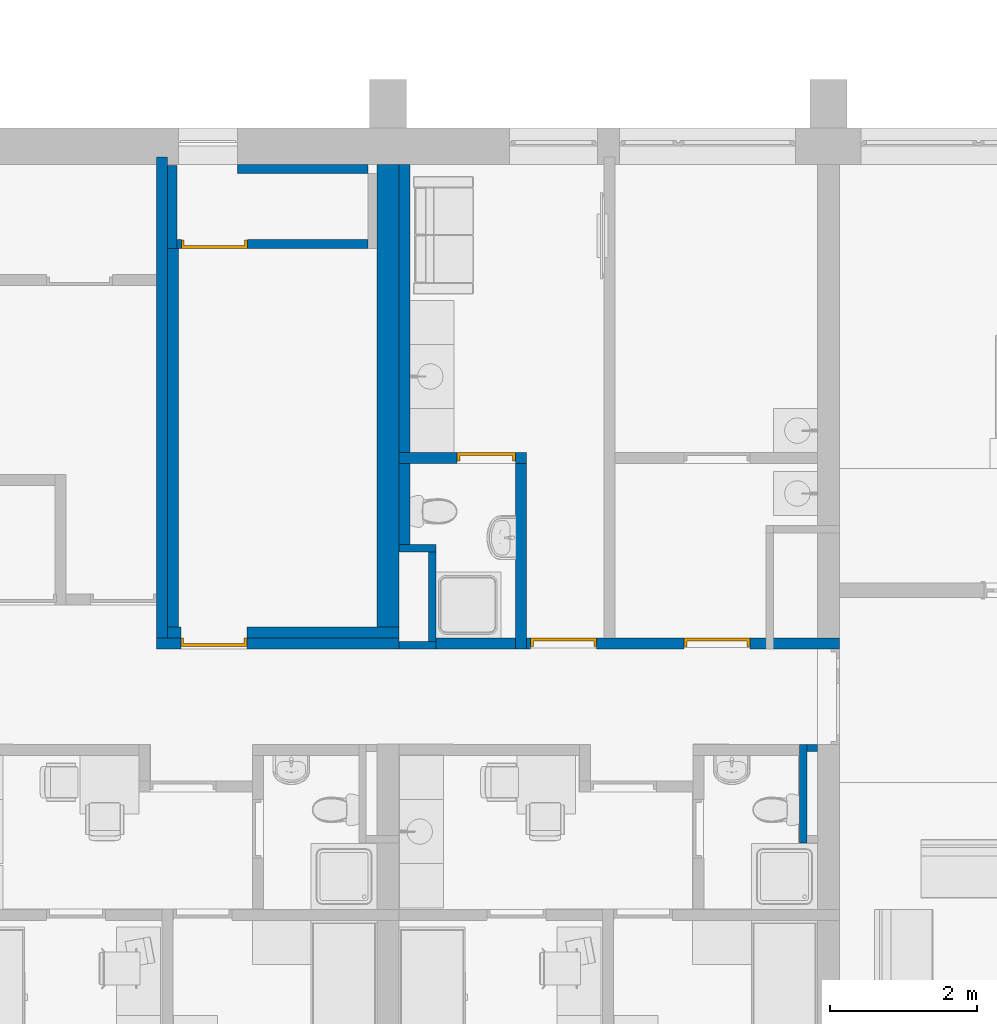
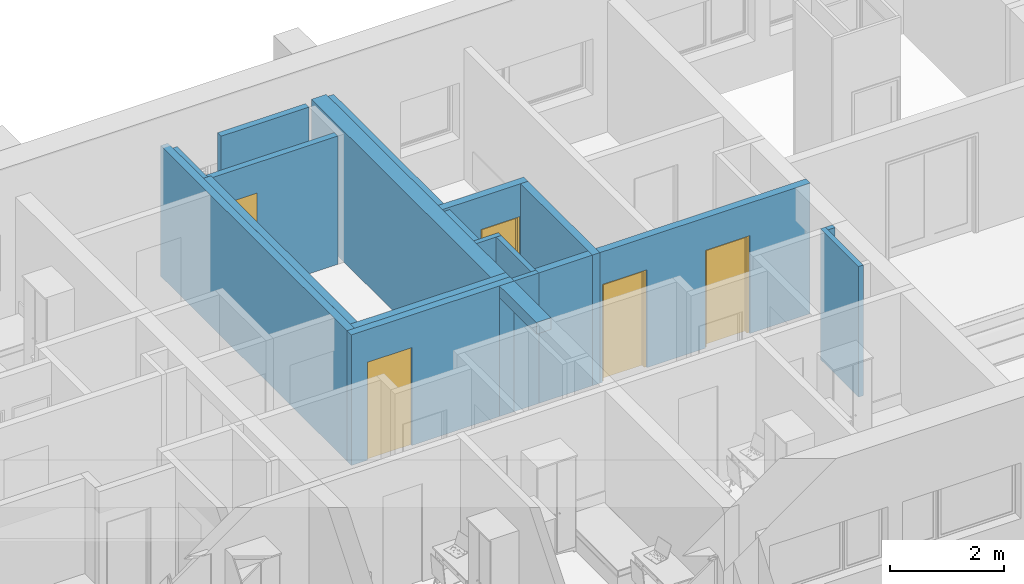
# One storey, part 13 of 152: 17 walls, 5 doors, 7 openings.
"""IFC2X3 building model written with IfcOpenShell, lengths in millimetres."""

from ifc_helpers import new_model, entity, si_unit, converted_unit, money_unit, direction, frame, origin_with_axes, place, context, subcontext, project, spatial, polyline, outline, extrude, faceted_brep, source, transform, mapped, material, material_list, layer, layer_set, layer_usage, type_object, element, fill, save


model = new_model("IFC2X3")

# Units and contexts
model_context = context("Model", 3, precision=1e-05, world=origin_with_axes(), true_north=direction((0.0, 1.0)))
body_context = subcontext(model_context, "Body", "Model", "MODEL_VIEW")
ifc_project = project(units=[si_unit("LENGTHUNIT", "METRE", prefix="MILLI"), si_unit("AREAUNIT", "SQUARE_METRE"), si_unit("VOLUMEUNIT", "CUBIC_METRE"), converted_unit("PLANEANGLEUNIT", "DEGREE", entity("IfcPlaneAngleMeasure", 0.0174532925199), si_unit("PLANEANGLEUNIT", "RADIAN"), dimensions=[0, 0, 0, 0, 0, 0, 0]), si_unit("SOLIDANGLEUNIT", "STERADIAN"), money_unit("USD"), converted_unit("TIMEUNIT", "Year", entity("IfcTimeMeasure", 31556926.0), si_unit("TIMEUNIT", "SECOND"), dimensions=[0, 0, 0, 0, 0, 0, 0]), si_unit("MASSUNIT", "GRAM"), si_unit("THERMODYNAMICTEMPERATUREUNIT", "DEGREE_CELSIUS"), si_unit("LUMINOUSINTENSITYUNIT", "LUMEN")], contexts=[model_context])

# Site, building, storey
site_placement = place(None, origin_with_axes())
site = spatial("IfcSite", under=ifc_project, at=site_placement, Name="Site", CompositionType="ELEMENT")
building_placement = place(site_placement, origin_with_axes())
building = spatial("IfcBuilding", under=site, at=building_placement, Name="Building", CompositionType="ELEMENT")
storey_placement = place(building_placement, frame((0.0, 0.0, 9500.0), z_axis=(0.0, 0.0, 1.0), x_axis=(1.0, 0.0, 0.0)))
storey = spatial("IfcBuildingStorey", under=building, at=storey_placement, Name="5KORRUS", CompositionType="ELEMENT", Elevation=9500.0)

# Wall, opening, door
ifc_material_1 = material(Name="UmbKipsplaat")
ifc_layer_1 = layer(ifc_material_1, 13.0, ventilated="UNKNOWN")
ifc_layer_2 = layer(ifc_material_1, 13.0, ventilated="UNKNOWN")
ifc_material_2 = material(Name="SOOJUSTUS MINERAALVILL")
ifc_layer_3 = layer(ifc_material_2, 98.0, ventilated="UNKNOWN")
ifc_layer_4 = layer(ifc_material_1, 13.0, ventilated="UNKNOWN")
ifc_layer_5 = layer(ifc_material_1, 13.0, ventilated="UNKNOWN")
ifc_layer_set_1 = layer_set([ifc_layer_1, ifc_layer_2, ifc_layer_3, ifc_layer_4, ifc_layer_5], Name="kipssein150")
ifc_layer_usage_1 = layer_usage(ifc_layer_set_1, "AXIS2", "POSITIVE", 0.0)
wall_type_1 = type_object("IfcWallType", Name="kipssein150 150", PredefinedType="NOTDEFINED")
wall_1_placement = place(storey_placement, frame((-16253.5225768, -9065.57320461, 0.0), z_axis=(0.0, 0.0, 1.0), x_axis=(-1.0, 0.0, 0.0)))
wall_1 = element("IfcWallStandardCase", 1, at=wall_1_placement, inside=storey, type_object=wall_type_1, material=ifc_layer_usage_1, Name="SS1", ObjectType="SS1", context=body_context, shape_type="SweptSolid", body=[
    extrude(outline(polyline([(0.0, 0.0), (1736.77412653, 0.0), (1736.77412653, 150.0), (0.0, 150.0), (0.0, 0.0)])), origin_with_axes(), (0.0, 0.0, 1.0), 2800.0),
])
opening_1_placement = place(wall_1_placement, frame((550.469369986, 0.0, 0.0), z_axis=(0.0, 0.0, 1.0), x_axis=(1.0, 0.0, 0.0)))
opening_1 = element("IfcOpeningElement", 2, at=opening_1_placement, cuts=wall_1, Name="SU3-5", context=body_context, shape_type="SweptSolid", body=[
    extrude(outline(polyline([(-400.0, -2100.0), (400.0, -2100.0), (400.0, 0.0), (-400.0, 0.0), (-400.0, -2100.0)])), frame((0.0, 150.0, 0.0), z_axis=(0.0, 1.0, 0.0), x_axis=(1.0, 0.0, 0.0)), (0.0, 0.0, -1.0), 450.0),
])
ifc_material_3 = material(Name="Background")
ifc_material_list = material_list([ifc_material_3])
door_style_1 = type_object("IfcDoorStyle", Name="Door 19", ConstructionType="NOTDEFINED", OperationType="SINGLE_SWING_LEFT", ParameterTakesPrecedence=False, Sizeable=False)
shared_shape_1 = source(origin_with_axes(), body_context, "Body", "Brep", [
    faceted_brep([(360.0, -40.0, 0.0), (360.0, -115.0, 0.0), (360.0, -115.0, 2060.0), (360.0, -40.0, 2060.0), (372.0, -40.0, 0.0), (372.0, 0.0, 0.0), (400.0, 0.0, 0.0), (400.0, -115.0, 0.0), (400.0, -115.0, 2060.0), (372.0, -40.0, 2060.0), (400.0, 0.0, 2060.0), (372.0, 0.0, 2060.0)], [[[0, 1, 2, 3]], [[4, 5, 6, 7, 1, 0]], [[2, 1, 7, 8]], [[9, 3, 2, 8, 10, 11]], [[9, 4, 0, 3]], [[11, 5, 4, 9]], [[11, 10, 6, 5]], [[7, 6, 10, 8]]]),
    faceted_brep([(-372.0, -40.0, 2060.0), (-372.0, 0.0, 2060.0), (-400.0, 0.0, 2060.0), (-400.0, -115.0, 2060.0), (-360.0, -115.0, 2060.0), (-360.0, -40.0, 2060.0), (-372.0, -40.0, 0.0), (-372.0, 0.0, 0.0), (-400.0, 0.0, 0.0), (-400.0, -115.0, 0.0), (-360.0, -115.0, 0.0), (-360.0, -40.0, 0.0)], [[[0, 1, 2, 3, 4, 5]], [[0, 6, 7, 1]], [[7, 8, 2, 1]], [[3, 2, 8, 9]], [[4, 3, 9, 10]], [[5, 4, 10, 11]], [[5, 11, 6, 0]], [[6, 11, 10, 9, 8, 7]]]),
    faceted_brep([(372.0, 0.0, 2072.0), (-372.0, 0.0, 2072.0), (-372.0, 0.0, 2060.0), (-400.0, 0.0, 2060.0), (-400.0, 0.0, 2100.0), (400.0, 0.0, 2100.0), (400.0, 0.0, 2060.0), (372.0, 0.0, 2060.0), (372.0, -40.0, 2072.0), (-372.0, -40.0, 2072.0), (-372.0, -40.0, 2060.0), (-360.0, -40.0, 2060.0), (-360.0, -115.0, 2060.0), (-400.0, -115.0, 2060.0), (-400.0, -115.0, 2100.0), (400.0, -115.0, 2100.0), (400.0, -115.0, 2060.0), (372.0, -40.0, 2060.0), (360.0, -115.0, 2060.0), (360.0, -40.0, 2060.0)], [[[0, 1, 2, 3, 4, 5, 6, 7]], [[0, 8, 9, 1]], [[1, 9, 10, 2]], [[10, 11, 12, 13, 3, 2]], [[14, 4, 3, 13]], [[15, 5, 4, 14]], [[16, 6, 5, 15]], [[17, 7, 6, 16, 18, 19]], [[7, 17, 8, 0]], [[10, 9, 8, 17, 19, 11]], [[19, 18, 12, 11]], [[13, 12, 18, 16, 15, 14]]]),
    faceted_brep([(-372.0, 0.0, 0.0), (372.0, 0.0, 0.0), (372.0, -40.0, 0.0), (-372.0, -40.0, 0.0), (-372.0, 0.0, 2072.0), (372.0, 0.0, 2072.0), (372.0, -40.0, 2072.0), (-372.0, -40.0, 2072.0)], [[[0, 1, 2, 3]], [[0, 4, 5, 1]], [[1, 5, 6, 2]], [[3, 2, 6, 7]], [[4, 0, 3, 7]], [[5, 4, 7, 6]]]),
])
door_1_placement = place(opening_1_placement, frame((400.0, 0.0, 0.0), z_axis=(0.0, 0.0, 1.0), x_axis=(-1.0, 0.0, 0.0)))
door_1 = element("IfcDoor", 3, at=door_1_placement, inside=storey, type_object=door_style_1, material=ifc_material_list, Name="SU3-5", ObjectType="Toa uks", OverallHeight=2100.0, OverallWidth=800.0, context=body_context, shape_type="MappedRepresentation", body=[
    mapped(shared_shape_1, transform((400.0, 0.0, 0.0))),
])
fill(opening_1, door_1)

# Wall
ifc_layer_usage_2 = layer_usage(ifc_layer_set_1, "AXIS2", "POSITIVE", -150.0)
wall_2_placement = place(storey_placement, frame((-21143.5981675, -11589.1092262, 0.0), z_axis=(0.0, 0.0, 1.0), x_axis=(0.0, 1.0, 0.0)))
element("IfcWallStandardCase", 4, at=wall_2_placement, inside=storey, type_object=wall_type_1, material=ifc_layer_usage_2, Name="SS1", ObjectType="SS1", context=body_context, shape_type="SweptSolid", body=[
    extrude(outline(polyline([(0.0, -150.0), (5305.50511743, -150.0), (5305.50511743, 0.0), (0.0, 0.0), (0.0, -150.0)])), origin_with_axes(), (0.0, 0.0, 1.0), 2800.0),
])

# Wall, openings, doors
ifc_layer_usage_3 = layer_usage(ifc_layer_set_1, "AXIS2", "POSITIVE", 0.0)
wall_3_placement = place(storey_placement, frame((-17490.5225768, -11739.2398994, 0.0), z_axis=(0.0, 0.0, 1.0), x_axis=(1.0, 0.0, 0.0)))
wall_3 = element("IfcWallStandardCase", 5, at=wall_3_placement, inside=storey, type_object=wall_type_1, material=ifc_layer_usage_3, Name="SS1", ObjectType="SS1", context=body_context, shape_type="SweptSolid", body=[
    extrude(outline(polyline([(0.0, 0.0), (5500.22587347, 0.0), (5500.22587347, 150.0), (0.0, 150.0), (0.0, 0.0)])), origin_with_axes(), (0.0, 0.0, 1.0), 2800.0),
])
opening_2_placement = place(wall_3_placement, frame((1742.0, 0.0, 0.0), z_axis=(0.0, 0.0, 1.0), x_axis=(1.0, 0.0, 0.0)))
opening_2 = element("IfcOpeningElement", 6, at=opening_2_placement, cuts=wall_3, Name="SU2-6", context=body_context, shape_type="SweptSolid", body=[
    extrude(outline(polyline([(-450.0, -2100.0), (450.0, -2100.0), (450.0, 0.0), (-450.0, 0.0), (-450.0, -2100.0)])), frame((0.0, -150.0, 0.0), z_axis=(0.0, -1.0, 0.0), x_axis=(-1.0, 0.0, 0.0)), (0.0, 0.0, -1.0), 450.0),
])
opening_3_placement = place(wall_3_placement, frame((3831.81533962, 0.0, 0.0), z_axis=(0.0, 0.0, 1.0), x_axis=(1.0, 0.0, 0.0)))
opening_3 = element("IfcOpeningElement", 7, at=opening_3_placement, cuts=wall_3, Name="SU2-5", context=body_context, shape_type="SweptSolid", body=[
    extrude(outline(polyline([(-450.0, -2100.0), (450.0, -2100.0), (450.0, 0.0), (-450.0, 0.0), (-450.0, -2100.0)])), frame((0.0, -150.0, 0.0), z_axis=(0.0, 1.0, 0.0), x_axis=(1.0, 0.0, 0.0)), (0.0, 0.0, 1.0), 450.0),
])
door_style_2 = type_object("IfcDoorStyle", Name="Door 19", ConstructionType="NOTDEFINED", OperationType="SINGLE_SWING_LEFT", ParameterTakesPrecedence=False, Sizeable=False)
shared_shape_2 = source(origin_with_axes(), body_context, "Body", "Brep", [
    faceted_brep([(410.0, -40.0, 0.0), (410.0, -115.0, 0.0), (410.0, -115.0, 2060.0), (410.0, -40.0, 2060.0), (422.0, -40.0, 0.0), (422.0, 0.0, 0.0), (450.0, 0.0, 0.0), (450.0, -115.0, 0.0), (450.0, -115.0, 2060.0), (422.0, -40.0, 2060.0), (450.0, 0.0, 2060.0), (422.0, 0.0, 2060.0)], [[[0, 1, 2, 3]], [[4, 5, 6, 7, 1, 0]], [[2, 1, 7, 8]], [[9, 3, 2, 8, 10, 11]], [[9, 4, 0, 3]], [[11, 5, 4, 9]], [[11, 10, 6, 5]], [[7, 6, 10, 8]]]),
    faceted_brep([(-422.0, -40.0, 2060.0), (-422.0, 0.0, 2060.0), (-450.0, 0.0, 2060.0), (-450.0, -115.0, 2060.0), (-410.0, -115.0, 2060.0), (-410.0, -40.0, 2060.0), (-422.0, -40.0, 0.0), (-422.0, 0.0, 0.0), (-450.0, 0.0, 0.0), (-450.0, -115.0, 0.0), (-410.0, -115.0, 0.0), (-410.0, -40.0, 0.0)], [[[0, 1, 2, 3, 4, 5]], [[0, 6, 7, 1]], [[7, 8, 2, 1]], [[3, 2, 8, 9]], [[4, 3, 9, 10]], [[5, 4, 10, 11]], [[5, 11, 6, 0]], [[6, 11, 10, 9, 8, 7]]]),
    faceted_brep([(422.0, 0.0, 2072.0), (-422.0, 0.0, 2072.0), (-422.0, 0.0, 2060.0), (-450.0, 0.0, 2060.0), (-450.0, 0.0, 2100.0), (450.0, 0.0, 2100.0), (450.0, 0.0, 2060.0), (422.0, 0.0, 2060.0), (422.0, -40.0, 2072.0), (-422.0, -40.0, 2072.0), (-422.0, -40.0, 2060.0), (-410.0, -40.0, 2060.0), (-410.0, -115.0, 2060.0), (-450.0, -115.0, 2060.0), (-450.0, -115.0, 2100.0), (450.0, -115.0, 2100.0), (450.0, -115.0, 2060.0), (422.0, -40.0, 2060.0), (410.0, -115.0, 2060.0), (410.0, -40.0, 2060.0)], [[[0, 1, 2, 3, 4, 5, 6, 7]], [[0, 8, 9, 1]], [[1, 9, 10, 2]], [[10, 11, 12, 13, 3, 2]], [[14, 4, 3, 13]], [[15, 5, 4, 14]], [[16, 6, 5, 15]], [[17, 7, 6, 16, 18, 19]], [[7, 17, 8, 0]], [[10, 9, 8, 17, 19, 11]], [[19, 18, 12, 11]], [[13, 12, 18, 16, 15, 14]]]),
    faceted_brep([(-422.0, 0.0, 0.0), (422.0, 0.0, 0.0), (422.0, -40.0, 0.0), (-422.0, -40.0, 0.0), (-422.0, 0.0, 2072.0), (422.0, 0.0, 2072.0), (422.0, -40.0, 2072.0), (-422.0, -40.0, 2072.0)], [[[0, 1, 2, 3]], [[0, 4, 5, 1]], [[1, 5, 6, 2]], [[3, 2, 6, 7]], [[4, 0, 3, 7]], [[5, 4, 7, 6]]]),
])
door_2_placement = place(opening_2_placement, frame((-450.0, 0.0, 0.0), z_axis=(0.0, 0.0, 1.0), x_axis=(1.0, 0.0, 0.0)))
door_2 = element("IfcDoor", 8, at=door_2_placement, inside=storey, type_object=door_style_2, material=ifc_material_list, Name="SU2-6", ObjectType="Korteri välisuks", OverallHeight=2100.0, OverallWidth=900.0, context=body_context, shape_type="MappedRepresentation", body=[
    mapped(shared_shape_2, transform((450.0, 150.0, 0.0))),
])
fill(opening_2, door_2)
door_style_3 = type_object("IfcDoorStyle", Name="Door 19", ConstructionType="NOTDEFINED", OperationType="SINGLE_SWING_RIGHT", ParameterTakesPrecedence=False, Sizeable=False)
shared_shape_3 = source(origin_with_axes(), body_context, "Body", "Brep", [
    faceted_brep([(-410.0, -40.0, 0.0), (-410.0, -40.0, 2060.0), (-410.0, -115.0, 2060.0), (-410.0, -115.0, 0.0), (-422.0, -40.0, 2060.0), (-422.0, -40.0, 0.0), (-422.0, 0.0, 2060.0), (-450.0, 0.0, 2060.0), (-450.0, -115.0, 2060.0), (-450.0, -115.0, 0.0), (-450.0, 0.0, 0.0), (-422.0, 0.0, 0.0)], [[[0, 1, 2, 3]], [[4, 1, 0, 5]], [[4, 6, 7, 8, 2, 1]], [[2, 8, 9, 3]], [[5, 0, 3, 9, 10, 11]], [[6, 4, 5, 11]], [[6, 11, 10, 7]], [[9, 8, 7, 10]]]),
    faceted_brep([(422.0, -40.0, 2060.0), (410.0, -40.0, 2060.0), (410.0, -115.0, 2060.0), (450.0, -115.0, 2060.0), (450.0, 0.0, 2060.0), (422.0, 0.0, 2060.0), (422.0, -40.0, 0.0), (410.0, -40.0, 0.0), (410.0, -115.0, 0.0), (450.0, -115.0, 0.0), (450.0, 0.0, 0.0), (422.0, 0.0, 0.0)], [[[0, 1, 2, 3, 4, 5]], [[1, 0, 6, 7]], [[1, 7, 8, 2]], [[2, 8, 9, 3]], [[3, 9, 10, 4]], [[11, 5, 4, 10]], [[0, 5, 11, 6]], [[6, 11, 10, 9, 8, 7]]]),
    faceted_brep([(-422.0, 0.0, 2072.0), (-422.0, 0.0, 2060.0), (-450.0, 0.0, 2060.0), (-450.0, 0.0, 2100.0), (450.0, 0.0, 2100.0), (450.0, 0.0, 2060.0), (422.0, 0.0, 2060.0), (422.0, 0.0, 2072.0), (-422.0, -40.0, 2072.0), (-422.0, -40.0, 2060.0), (-410.0, -40.0, 2060.0), (-410.0, -115.0, 2060.0), (-450.0, -115.0, 2060.0), (-450.0, -115.0, 2100.0), (450.0, -115.0, 2100.0), (450.0, -115.0, 2060.0), (422.0, -40.0, 2060.0), (410.0, -115.0, 2060.0), (410.0, -40.0, 2060.0), (422.0, -40.0, 2072.0)], [[[0, 1, 2, 3, 4, 5, 6, 7]], [[1, 0, 8, 9]], [[9, 10, 11, 12, 2, 1]], [[12, 13, 3, 2]], [[13, 14, 4, 3]], [[14, 15, 5, 4]], [[16, 6, 5, 15, 17, 18]], [[7, 6, 16, 19]], [[0, 7, 19, 8]], [[16, 18, 10, 9, 8, 19]], [[10, 18, 17, 11]], [[15, 14, 13, 12, 11, 17]]]),
    faceted_brep([(422.0, 0.0, 0.0), (422.0, -40.0, 0.0), (-422.0, -40.0, 0.0), (-422.0, 0.0, 0.0), (422.0, 0.0, 2072.0), (422.0, -40.0, 2072.0), (-422.0, -40.0, 2072.0), (-422.0, 0.0, 2072.0)], [[[0, 1, 2, 3]], [[4, 5, 1, 0]], [[1, 5, 6, 2]], [[3, 2, 6, 7]], [[0, 3, 7, 4]], [[7, 6, 5, 4]]]),
])
door_3_placement = place(opening_3_placement, frame((-450.0, 0.0, 0.0), z_axis=(0.0, 0.0, 1.0), x_axis=(1.0, 0.0, 0.0)))
door_3 = element("IfcDoor", 9, at=door_3_placement, inside=storey, type_object=door_style_3, material=ifc_material_list, Name="SU2-5", ObjectType="Korteri välisuks", OverallHeight=2100.0, OverallWidth=900.0, context=body_context, shape_type="MappedRepresentation", body=[
    mapped(shared_shape_3, transform((450.0, 150.0, 0.0))),
])
fill(opening_3, door_3)

# Wall
ifc_layer_usage_4 = layer_usage(ifc_layer_set_1, "AXIS2", "POSITIVE", -150.0)
wall_4_placement = place(storey_placement, frame((-21293.7997794, -11739.1092262, 0.0), z_axis=(0.0, 0.0, 1.0), x_axis=(0.0, 1.0, 0.0)))
element("IfcWallStandardCase", 10, at=wall_4_placement, inside=storey, type_object=wall_type_1, material=ifc_layer_usage_4, Name="SS1", ObjectType="SS1", context=body_context, shape_type="SweptSolid", body=[
    extrude(outline(polyline([(0.0, -150.0), (6699.50511743, -150.0), (6699.50511743, 0.0), (0.0, 0.0), (0.0, -150.0)])), origin_with_axes(), (0.0, 0.0, 1.0), 2800.0),
])

# Wall, opening, door
ifc_layer_usage_5 = layer_usage(ifc_layer_set_1, "AXIS2", "POSITIVE", 0.0)
wall_5_placement = place(storey_placement, frame((-21293.7997794, -11739.1092262, 0.0), z_axis=(0.0, 0.0, 1.0), x_axis=(1.0, 0.0, 0.0)))
wall_5 = element("IfcWallStandardCase", 11, at=wall_5_placement, inside=storey, type_object=wall_type_1, material=ifc_layer_usage_5, Name="SS1", ObjectType="SS1", context=body_context, shape_type="SweptSolid", body=[
    extrude(outline(polyline([(0.0, 0.0), (3303.5030761, 0.0), (3303.5030761, 150.0), (0.0, 150.0), (0.0, 0.0)])), origin_with_axes(), (0.0, 0.0, 1.0), 2800.0),
])
opening_4_placement = place(wall_5_placement, frame((779.809949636, 0.0, 0.0), z_axis=(0.0, 0.0, 1.0), x_axis=(1.0, 0.0, 0.0)))
opening_4 = element("IfcOpeningElement", 12, at=opening_4_placement, cuts=wall_5, Name="SU2-3", context=body_context, shape_type="SweptSolid", body=[
    extrude(outline(polyline([(-450.0, 0.0), (450.0, 0.0), (450.0, 2100.0), (-450.0, 2100.0), (-450.0, 0.0)])), frame((0.0, -150.0, 0.0), z_axis=(0.0, -1.0, 0.0), x_axis=(1.0, 0.0, 0.0)), (0.0, 0.0, -1.0), 450.0),
])
door_style_4 = type_object("IfcDoorStyle", Name="Door 19", ConstructionType="NOTDEFINED", OperationType="SINGLE_SWING_LEFT", ParameterTakesPrecedence=False, Sizeable=False)
shared_shape_4 = source(origin_with_axes(), body_context, "Body", "Brep", [
    faceted_brep([(410.0, -75.0, 0.0), (410.0, -150.0, 0.0), (410.0, -150.0, 2060.0), (410.0, -75.0, 2060.0), (422.0, -75.0, 0.0), (422.0, -35.0, 0.0), (450.0, -35.0, 0.0), (450.0, -150.0, 0.0), (450.0, -150.0, 2060.0), (422.0, -75.0, 2060.0), (450.0, -35.0, 2060.0), (422.0, -35.0, 2060.0)], [[[0, 1, 2, 3]], [[4, 5, 6, 7, 1, 0]], [[2, 1, 7, 8]], [[9, 3, 2, 8, 10, 11]], [[9, 4, 0, 3]], [[11, 5, 4, 9]], [[11, 10, 6, 5]], [[7, 6, 10, 8]]]),
    faceted_brep([(-422.0, -75.0, 2060.0), (-422.0, -35.0, 2060.0), (-450.0, -35.0, 2060.0), (-450.0, -150.0, 2060.0), (-410.0, -150.0, 2060.0), (-410.0, -75.0, 2060.0), (-422.0, -75.0, 0.0), (-422.0, -35.0, 0.0), (-450.0, -35.0, 0.0), (-450.0, -150.0, 0.0), (-410.0, -150.0, 0.0), (-410.0, -75.0, 0.0)], [[[0, 1, 2, 3, 4, 5]], [[0, 6, 7, 1]], [[7, 8, 2, 1]], [[3, 2, 8, 9]], [[4, 3, 9, 10]], [[5, 4, 10, 11]], [[5, 11, 6, 0]], [[6, 11, 10, 9, 8, 7]]]),
    faceted_brep([(422.0, -35.0, 2072.0), (-422.0, -35.0, 2072.0), (-422.0, -35.0, 2060.0), (-450.0, -35.0, 2060.0), (-450.0, -35.0, 2100.0), (450.0, -35.0, 2100.0), (450.0, -35.0, 2060.0), (422.0, -35.0, 2060.0), (422.0, -75.0, 2072.0), (-422.0, -75.0, 2072.0), (-422.0, -75.0, 2060.0), (-410.0, -75.0, 2060.0), (-410.0, -150.0, 2060.0), (-450.0, -150.0, 2060.0), (-450.0, -150.0, 2100.0), (450.0, -150.0, 2100.0), (450.0, -150.0, 2060.0), (422.0, -75.0, 2060.0), (410.0, -150.0, 2060.0), (410.0, -75.0, 2060.0)], [[[0, 1, 2, 3, 4, 5, 6, 7]], [[0, 8, 9, 1]], [[1, 9, 10, 2]], [[10, 11, 12, 13, 3, 2]], [[14, 4, 3, 13]], [[15, 5, 4, 14]], [[16, 6, 5, 15]], [[17, 7, 6, 16, 18, 19]], [[7, 17, 8, 0]], [[10, 9, 8, 17, 19, 11]], [[19, 18, 12, 11]], [[13, 12, 18, 16, 15, 14]]]),
    faceted_brep([(-422.0, -35.0, 0.0), (422.0, -35.0, 0.0), (422.0, -75.0, 0.0), (-422.0, -75.0, 0.0), (-422.0, -35.0, 2072.0), (422.0, -35.0, 2072.0), (422.0, -75.0, 2072.0), (-422.0, -75.0, 2072.0)], [[[0, 1, 2, 3]], [[0, 4, 5, 1]], [[1, 5, 6, 2]], [[3, 2, 6, 7]], [[4, 0, 3, 7]], [[5, 4, 7, 6]]]),
])
door_4_placement = place(opening_4_placement, frame((450.0, 0.0, 0.0), z_axis=(0.0, 0.0, 1.0), x_axis=(-1.0, 0.0, 0.0)))
door_4 = element("IfcDoor", 13, at=door_4_placement, inside=storey, type_object=door_style_4, material=ifc_material_list, Name="SU2-3", ObjectType="Abiruumi uks", OverallHeight=2100.0, OverallWidth=900.0, context=body_context, shape_type="MappedRepresentation", body=[
    mapped(shared_shape_4, transform((450.0, 0.0, 0.0))),
])
fill(opening_4, door_4)

# Wall, opening
ifc_layer_usage_6 = layer_usage(ifc_layer_set_1, "AXIS2", "POSITIVE", 0.0)
wall_6_placement = place(storey_placement, frame((-21143.5981675, -11589.1092262, 0.0), z_axis=(0.0, 0.0, 1.0), x_axis=(1.0, 0.0, 0.0)))
wall_6 = element("IfcWallStandardCase", 14, at=wall_6_placement, inside=storey, type_object=wall_type_1, material=ifc_layer_usage_6, Name="SS1", ObjectType="SS1", context=body_context, shape_type="SweptSolid", body=[
    extrude(outline(polyline([(0.0, 0.0), (3153.30146423, 0.0), (3153.30146423, 150.0), (0.0, 150.0), (0.0, 0.0)])), origin_with_axes(), (0.0, 0.0, 1.0), 2800.0),
])
opening_5_placement = place(wall_6_placement, frame((629.608337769, 0.0, 0.0), z_axis=(0.0, 0.0, 1.0), x_axis=(1.0, 0.0, 0.0)))
element("IfcOpeningElement", 15, at=opening_5_placement, cuts=wall_6, Name="DOO - 001", context=body_context, shape_type="SweptSolid", body=[
    extrude(outline(polyline([(-450.0, 0.0), (-450.0, -2100.0), (450.0, -2100.0), (450.0, 0.0), (-450.0, 0.0)])), frame((0.0, 150.0, 0.0), z_axis=(0.0, 1.0, 0.0), x_axis=(1.0, 0.0, 0.0)), (0.0, 0.0, 1.0), 150.0),
    extrude(outline(polyline([(-450.0, 2100.0), (-450.0, 0.0), (450.0, 0.0), (450.0, 2100.0), (-450.0, 2100.0)])), frame((0.0, 150.0, 0.0), z_axis=(0.0, -1.0, 0.0), x_axis=(1.0, 0.0, 0.0)), (0.0, 0.0, 1.0), 150.0),
])

# Walls
ifc_layer_usage_7 = layer_usage(ifc_layer_set_1, "AXIS2", "POSITIVE", -150.0)
wall_7_placement = place(storey_placement, frame((-16253.5225768, -9065.57320461, 0.0), z_axis=(0.0, 0.0, 1.0), x_axis=(0.0, -1.0, 0.0)))
element("IfcWallStandardCase", 16, at=wall_7_placement, inside=storey, type_object=wall_type_1, material=ifc_layer_usage_7, Name="SS1", ObjectType="SS1", context=body_context, shape_type="SweptSolid", body=[
    extrude(outline(polyline([(0.0, -150.0), (2673.66669481, -150.0), (2673.66669481, 0.0), (0.0, 0.0), (0.0, -150.0)])), origin_with_axes(), (0.0, 0.0, 1.0), 2800.0),
])
ifc_layer_usage_8 = layer_usage(ifc_layer_set_1, "AXIS2", "POSITIVE", 0.0)
wall_8_placement = place(storey_placement, frame((-17990.2967033, -5139.6041088, 0.0), z_axis=(0.0, 0.0, 1.0), x_axis=(0.0, -1.0, 0.0)))
element("IfcWallStandardCase", 17, at=wall_8_placement, inside=storey, type_object=wall_type_1, material=ifc_layer_usage_8, Name="SS1", ObjectType="SS1", context=body_context, shape_type="SweptSolid", body=[
    extrude(outline(polyline([(0.0, 0.0), (5175.63579061, 0.0), (5175.63579061, 150.0), (0.0, 150.0), (0.0, 0.0)])), origin_with_axes(), (0.0, 0.0, 1.0), 2750.0),
])

# Wall, opening
ifc_material_4 = material(Name="Olemasolevad seinad tellis, uus viimistlus")
ifc_layer_6 = layer(ifc_material_4, 300.0, ventilated="UNKNOWN")
ifc_layer_set_2 = layer_set([ifc_layer_6], Name="Olemasolevad seinad tellis, uus viimistlus  300")
ifc_layer_usage_9 = layer_usage(ifc_layer_set_2, "AXIS2", "POSITIVE", 0.0)
wall_type_2 = type_object("IfcWallType", Name="Olemasolevad seinad tellis, uus viimistlus  300", PredefinedType="NOTDEFINED")
wall_9_placement = place(storey_placement, frame((-17990.2967033, -13036.3705726, 0.0), z_axis=(0.0, 0.0, 1.0), x_axis=(0.0, 1.0, 0.0)))
wall_9 = element("IfcWallStandardCase", 18, at=wall_9_placement, inside=storey, type_object=wall_type_2, material=ifc_layer_usage_9, Name="KS1", ObjectType="KS1", context=body_context, shape_type="SweptSolid", body=[
    extrude(outline(polyline([(0.0, 0.0), (7896.7664638, 0.0), (7896.7664638, 300.0), (0.0, 300.0), (0.0, 0.0)])), origin_with_axes(), (0.0, 0.0, 1.0), 2800.0),
])
opening_6_placement = place(wall_9_placement, frame((646.955460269, 0.0, 0.0), z_axis=(0.0, 0.0, 1.0), x_axis=(1.0, 0.0, 0.0)))
element("IfcOpeningElement", 19, at=opening_6_placement, cuts=wall_9, Name="DOO - 001", context=body_context, shape_type="SweptSolid", body=[
    extrude(outline(polyline([(-650.0, 2550.0), (-650.0, 0.0), (650.0, 0.0), (650.0, 2550.0), (-650.0, 2550.0)])), frame((0.0, 0.0, 0.0), z_axis=(0.0, -1.0, 0.0), x_axis=(1.0, 0.0, 0.0)), (0.0, 0.0, 1.0), 300.0),
    extrude(outline(polyline([(-650.0, 0.0), (-650.0, -2550.0), (650.0, -2550.0), (650.0, 0.0), (-650.0, 0.0)])), frame((0.0, 0.0, 0.0), z_axis=(0.0, 1.0, 0.0), x_axis=(1.0, 0.0, 0.0)), (0.0, 0.0, 1.0), 300.0),
])

# Walls
ifc_material_5 = material(Name="krohv")
ifc_layer_7 = layer(ifc_material_5, 2.0, ventilated="UNKNOWN")
ifc_layer_8 = layer(ifc_material_5, 10.0, ventilated="UNKNOWN")
ifc_material_6 = material(Name="Kergplokk")
ifc_layer_9 = layer(ifc_material_6, 76.0, ventilated="UNKNOWN")
ifc_layer_10 = layer(ifc_material_5, 10.0, ventilated="UNKNOWN")
ifc_layer_11 = layer(ifc_material_5, 2.0, ventilated="UNKNOWN")
ifc_layer_set_3 = layer_set([ifc_layer_7, ifc_layer_8, ifc_layer_9, ifc_layer_10, ifc_layer_11], Name="Kergplokk Bauroc 100")
ifc_layer_usage_10 = layer_usage(ifc_layer_set_3, "AXIS2", "POSITIVE", -100.0)
wall_type_3 = type_object("IfcWallType", Name="Kergplokk Bauroc 100 100", PredefinedType="NOTDEFINED")
wall_10_placement = place(storey_placement, frame((-12434.008308, -13039.3705726, 0.0), z_axis=(0.0, 0.0, 1.0), x_axis=(0.0, -1.0, 0.0)))
element("IfcWallStandardCase", 20, at=wall_10_placement, inside=storey, type_object=wall_type_3, material=ifc_layer_usage_10, Name="SS2", ObjectType="SS2", context=body_context, shape_type="SweptSolid", body=[
    extrude(outline(polyline([(0.0, -100.0), (1341.10105359, -100.0), (1341.10105359, 0.0), (0.0, 0.0), (0.0, -100.0)])), origin_with_axes(), (0.0, 0.0, 1.0), 2800.0),
])
ifc_layer_usage_11 = layer_usage(ifc_layer_set_3, "AXIS2", "POSITIVE", -100.0)
wall_11_placement = place(storey_placement, frame((-17990.2967033, -10315.2398994, 0.0), z_axis=(0.0, 0.0, 1.0), x_axis=(1.0, 0.0, 0.0)))
element("IfcWallStandardCase", 21, at=wall_11_placement, inside=storey, type_object=wall_type_3, material=ifc_layer_usage_11, Name="SS2", ObjectType="SS2", context=body_context, shape_type="SweptSolid", body=[
    extrude(outline(polyline([(0.0, -100.0), (499.774126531, -100.0), (499.774126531, 0.0), (0.0, 0.0), (0.0, -100.0)])), origin_with_axes(), (0.0, 0.0, 1.0), 2800.0),
])
ifc_layer_usage_12 = layer_usage(ifc_layer_set_3, "AXIS2", "POSITIVE", 0.0)
wall_12_placement = place(storey_placement, frame((-17490.5225768, -11739.2398994, 0.0), z_axis=(0.0, 0.0, 1.0), x_axis=(0.0, 1.0, 0.0)))
element("IfcWallStandardCase", 22, at=wall_12_placement, inside=storey, type_object=wall_type_3, material=ifc_layer_usage_12, Name="SS2", ObjectType="SS2", context=body_context, shape_type="SweptSolid", body=[
    extrude(outline(polyline([(0.0, 0.0), (1424.0, 0.0), (1424.0, 100.0), (0.0, 100.0), (0.0, 0.0)])), origin_with_axes(), (0.0, 0.0, 1.0), 2800.0),
])
ifc_layer_usage_13 = layer_usage(ifc_layer_set_3, "AXIS2", "POSITIVE", 0.0)
wall_13_placement = place(storey_placement, frame((-17990.2967033, -11739.2398994, 0.0), z_axis=(0.0, 0.0, 1.0), x_axis=(1.0, 0.0, 0.0)))
element("IfcWallStandardCase", 23, at=wall_13_placement, inside=storey, type_object=wall_type_3, material=ifc_layer_usage_13, Name="SS2", ObjectType="SS2", context=body_context, shape_type="SweptSolid", body=[
    extrude(outline(polyline([(0.0, 0.0), (499.774126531, 0.0), (499.774126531, 100.0), (0.0, 100.0), (0.0, 0.0)])), origin_with_axes(), (0.0, 0.0, 1.0), 2800.0),
])
ifc_layer_usage_14 = layer_usage(ifc_layer_set_3, "AXIS2", "POSITIVE", -100.0)
wall_14_placement = place(storey_placement, frame((-12434.008308, -13039.3705726, 0.0), z_axis=(0.0, 0.0, 1.0), x_axis=(1.0, 0.0, 0.0)))
element("IfcWallStandardCase", 24, at=wall_14_placement, inside=storey, type_object=wall_type_3, material=ifc_layer_usage_14, Name="SS2", ObjectType="SS2", context=body_context, shape_type="SweptSolid", body=[
    extrude(outline(polyline([(0.0, -100.0), (143.711604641, -100.0), (143.711604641, 0.0), (0.0, 0.0), (0.0, -100.0)])), origin_with_axes(), (0.0, 0.0, 1.0), 2800.0),
])
ifc_material_7 = material(Name="Teras")
ifc_layer_12 = layer(ifc_material_7, 12.5, ventilated="UNKNOWN")
ifc_material_8 = material(Name="Kõva mineraalvill")
ifc_layer_13 = layer(ifc_material_8, 100.0, ventilated="UNKNOWN")
ifc_layer_14 = layer(ifc_material_7, 12.5, ventilated="UNKNOWN")
ifc_layer_set_4 = layer_set([ifc_layer_12, ifc_layer_13, ifc_layer_14], Name="Plekkkattega soojustatud paneel")
ifc_layer_usage_15 = layer_usage(ifc_layer_set_4, "AXIS2", "POSITIVE", -125.0)
wall_type_4 = type_object("IfcWallType", Name="Plekkkattega soojustatud paneel 125", PredefinedType="NOTDEFINED")
wall_15_placement = place(storey_placement, frame((-21143.7997794, -6283.6041088, 0.0), z_axis=(0.0, 0.0, 1.0), x_axis=(0.0, 1.0, 0.0)))
element("IfcWallStandardCase", 25, at=wall_15_placement, inside=storey, type_object=wall_type_4, material=ifc_layer_usage_15, Name="SS3", ObjectType="SS3", context=body_context, shape_type="SweptSolid", body=[
    extrude(outline(polyline([(0.0, -125.0), (1131.5, -125.0), (1131.5, 0.0), (0.0, 0.0), (0.0, -125.0)])), origin_with_axes(), (0.0, 0.0, 1.0), 2750.0),
])
ifc_layer_usage_16 = layer_usage(ifc_layer_set_4, "AXIS2", "POSITIVE", 0.0)
wall_16_placement = place(storey_placement, frame((-20193.5981675, -5264.6041088, 0.0), z_axis=(0.0, 0.0, 1.0), x_axis=(1.0, 0.0, 0.0)))
element("IfcWallStandardCase", 26, at=wall_16_placement, inside=storey, type_object=wall_type_4, material=ifc_layer_usage_16, Name="SS3", ObjectType="SS3", context=body_context, shape_type="SweptSolid", body=[
    extrude(outline(polyline([(0.0, 0.0), (1778.30146423, 0.0), (1778.30146423, 125.0), (0.0, 125.0), (0.0, 0.0)])), origin_with_axes(), (0.0, 0.0, 1.0), 2750.0),
])

# Wall, opening, door
ifc_layer_usage_17 = layer_usage(ifc_layer_set_4, "AXIS2", "POSITIVE", 0.0)
wall_17_placement = place(storey_placement, frame((-21143.7997794, -6283.6041088, 0.0), z_axis=(0.0, 0.0, 1.0), x_axis=(1.0, 0.0, 0.0)))
wall_17 = element("IfcWallStandardCase", 27, at=wall_17_placement, inside=storey, type_object=wall_type_4, material=ifc_layer_usage_17, Name="SS3", ObjectType="SS3", context=body_context, shape_type="SweptSolid", body=[
    extrude(outline(polyline([(0.0, 0.0), (2728.5030761, 0.0), (2728.5030761, 125.0), (0.0, 125.0), (0.0, 0.0)])), origin_with_axes(), (0.0, 0.0, 1.0), 2750.0),
])
opening_7_placement = place(wall_17_placement, frame((636.501272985, 0.0, 0.0), z_axis=(0.0, 0.0, 1.0), x_axis=(1.0, 0.0, 0.0)))
opening_7 = element("IfcOpeningElement", 28, at=opening_7_placement, cuts=wall_17, Name="SU2-2", context=body_context, shape_type="SweptSolid", body=[
    extrude(outline(polyline([(-450.0, -2100.0), (450.0, -2100.0), (450.0, 0.0), (-450.0, 0.0), (-450.0, -2100.0)])), frame((0.0, 125.0, 0.0), z_axis=(0.0, -1.0, 0.0), x_axis=(-1.0, 0.0, 0.0)), (0.0, 0.0, 1.0), 375.0),
])
door_style_5 = type_object("IfcDoorStyle", Name="Door 19", ConstructionType="NOTDEFINED", OperationType="SINGLE_SWING_RIGHT", ParameterTakesPrecedence=False, Sizeable=False)
shared_shape_5 = source(origin_with_axes(), body_context, "Body", "Brep", [
    faceted_brep([(-410.0, -40.0, 0.0), (-410.0, -40.0, 2060.0), (-410.0, -115.0, 2060.0), (-410.0, -115.0, 0.0), (-422.0, -40.0, 2060.0), (-422.0, -40.0, 0.0), (-422.0, 0.0, 2060.0), (-450.0, 0.0, 2060.0), (-450.0, -115.0, 2060.0), (-450.0, -115.0, 0.0), (-450.0, 0.0, 0.0), (-422.0, 0.0, 0.0)], [[[0, 1, 2, 3]], [[4, 1, 0, 5]], [[4, 6, 7, 8, 2, 1]], [[2, 8, 9, 3]], [[5, 0, 3, 9, 10, 11]], [[6, 4, 5, 11]], [[6, 11, 10, 7]], [[9, 8, 7, 10]]]),
    faceted_brep([(422.0, -40.0, 2060.0), (410.0, -40.0, 2060.0), (410.0, -115.0, 2060.0), (450.0, -115.0, 2060.0), (450.0, 0.0, 2060.0), (422.0, 0.0, 2060.0), (422.0, -40.0, 0.0), (410.0, -40.0, 0.0), (410.0, -115.0, 0.0), (450.0, -115.0, 0.0), (450.0, 0.0, 0.0), (422.0, 0.0, 0.0)], [[[0, 1, 2, 3, 4, 5]], [[1, 0, 6, 7]], [[1, 7, 8, 2]], [[2, 8, 9, 3]], [[3, 9, 10, 4]], [[11, 5, 4, 10]], [[0, 5, 11, 6]], [[6, 11, 10, 9, 8, 7]]]),
    faceted_brep([(-422.0, 0.0, 2072.0), (-422.0, 0.0, 2060.0), (-450.0, 0.0, 2060.0), (-450.0, 0.0, 2100.0), (450.0, 0.0, 2100.0), (450.0, 0.0, 2060.0), (422.0, 0.0, 2060.0), (422.0, 0.0, 2072.0), (-422.0, -40.0, 2072.0), (-422.0, -40.0, 2060.0), (-410.0, -40.0, 2060.0), (-410.0, -115.0, 2060.0), (-450.0, -115.0, 2060.0), (-450.0, -115.0, 2100.0), (450.0, -115.0, 2100.0), (450.0, -115.0, 2060.0), (422.0, -40.0, 2060.0), (410.0, -115.0, 2060.0), (410.0, -40.0, 2060.0), (422.0, -40.0, 2072.0)], [[[0, 1, 2, 3, 4, 5, 6, 7]], [[1, 0, 8, 9]], [[9, 10, 11, 12, 2, 1]], [[12, 13, 3, 2]], [[13, 14, 4, 3]], [[14, 15, 5, 4]], [[16, 6, 5, 15, 17, 18]], [[7, 6, 16, 19]], [[0, 7, 19, 8]], [[16, 18, 10, 9, 8, 19]], [[10, 18, 17, 11]], [[15, 14, 13, 12, 11, 17]]]),
    faceted_brep([(422.0, 0.0, 0.0), (422.0, -40.0, 0.0), (-422.0, -40.0, 0.0), (-422.0, 0.0, 0.0), (422.0, 0.0, 2072.0), (422.0, -40.0, 2072.0), (-422.0, -40.0, 2072.0), (-422.0, 0.0, 2072.0)], [[[0, 1, 2, 3]], [[4, 5, 1, 0]], [[1, 5, 6, 2]], [[3, 2, 6, 7]], [[0, 3, 7, 4]], [[7, 6, 5, 4]]]),
])
door_5_placement = place(opening_7_placement, frame((450.0, 0.0, 0.0), z_axis=(0.0, 0.0, 1.0), x_axis=(-1.0, 0.0, 0.0)))
door_5 = element("IfcDoor", 29, at=door_5_placement, inside=storey, type_object=door_style_5, material=ifc_material_list, Name="SU2-2", ObjectType="Abiruumi uks", OverallHeight=2100.0, OverallWidth=900.0, context=body_context, shape_type="MappedRepresentation", body=[
    mapped(shared_shape_5, transform((450.0, 0.0, 0.0))),
])
fill(opening_7, door_5)

save(model, "model.ifc")
